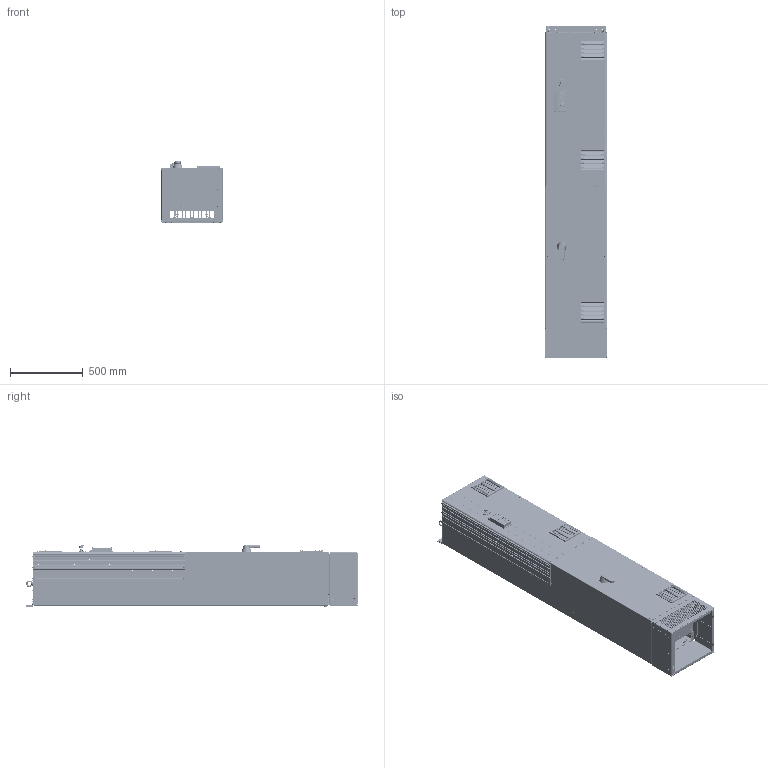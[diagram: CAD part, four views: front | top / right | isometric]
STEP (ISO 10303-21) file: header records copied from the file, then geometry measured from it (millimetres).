
FILE_DESCRIPTION((''),'2;1');
FILE_NAME('P454-1042_ASM','2014-08-05T',('U251643'),('Danfoss Power Electronics'),'PRO/ENGINEER BY PARAMETRIC TECHNOLOGY CORPORATION, 2013050','PRO/ENGINEER BY PARAMETRIC TECHNOLOGY CORPORATION, 2013050','');
FILE_SCHEMA(('CONFIG_CONTROL_DESIGN','GEOMETRIC_VALIDATION_PROPERTIES_MIM'));
Products named in the file (211): 177G6034; FH-M5-12-ZI; FH-M8-20-ZI; SS-M5-2-ZI; S-M10-1-ZI; 177G6034_ASM; 177G6090; TPS-5MM-10; 177G6090_ASM; 177G6079; PEM_N10-M5-1-ZI; 177G6079_ASM; 177G5941; 177G5940; 26513; P454-1198_ASM; 177G6036; FH-M5-10-ZI; FH-M5-8-ZI; FH-M8-15-ZI; HFH-M10-20-ZI; 177G6036_ASM; 177G6028; SS-M5-1-ZI; 177G6028_ASM; 177G6029; 177G6029_ASM; SF-5-16-ZI; 177G6035_ASM; 177G5925; 681X9143; 26516; 177G6690; 177G6690_ASM; 177G6691; 177G3998; 177G3998_ASM; 177G5899; FH-M5-15-ZI; HFH-M10-35-ZI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
Assembly tree (743 placements, depth 6):
  P454-1042_ASM
    177G6034_ASM
      177G6034
      FH-M5-12-ZI  x25
      FH-M8-20-ZI  x2
      SS-M5-2-ZI  x30
      S-M10-1-ZI  x2
    P454-1198_ASM
      177G6090_ASM
        177G6090
        FH-M5-12-ZI  x2
        SS-M5-2-ZI  x2
        TPS-5MM-10  x2
      177G6079_ASM
        177G6079
        PEM_N10-M5-1-ZI
      177G5941
      177G5940
      26513  x2
    26513  x42
    177G6035_ASM
      177G6036_ASM
        177G6036
        FH-M5-10-ZI  x9
        FH-M5-8-ZI  x5
        FH-M5-12-ZI  x3
        FH-M8-15-ZI  x2
        SS-M5-2-ZI  x6
        HFH-M10-20-ZI  x4
      177G6028_ASM
        177G6028
        SS-M5-1-ZI
      177G6029_ASM
        177G6029
        SS-M5-1-ZI
      SF-5-16-ZI  x4
    177G5925  x2
    681X9143  x35
    26516  x6
    177G6690_ASM
      177G6690
    177G6691
    177G3998_ASM
      177G3998
    177G5899_ASM  x3
      177G5899
      FH-M5-15-ZI
      HFH-M10-35-ZI
    177A0062
    177G4265
    177A0064
    177A0076
    177G5919_ASM
      177G5919
      HFH-M10-35-ZI
    177G5900_ASM
      177G5900
      HFH-M10-35-ZI
    P454-1165_ASM
      177G6075_ASM
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Bounding box: 424.6 x 2283.5 x 421.57 mm (x, y, z)
Volume: 25526717.6 mm3; surface area: 15999670.9 mm2
Topology: 719 solids, 777 shells, 35916 faces, 94046 edges, 60445 vertices
Faces by surface type: plane 21787, cylinder 8494, bspline 2197, cone 1762, torus 1241, sphere 219, revolution 172, extrusion 44
Entity records: 826246 total; most frequent: CARTESIAN_POINT 182177, ORIENTED_EDGE 108376, DIRECTION 101601, EDGE_CURVE 54675, VECTOR 39281, LINE 39253, PRESENTATION_STYLE_ASSIGNMENT 37741, STYLED_ITEM 37638
